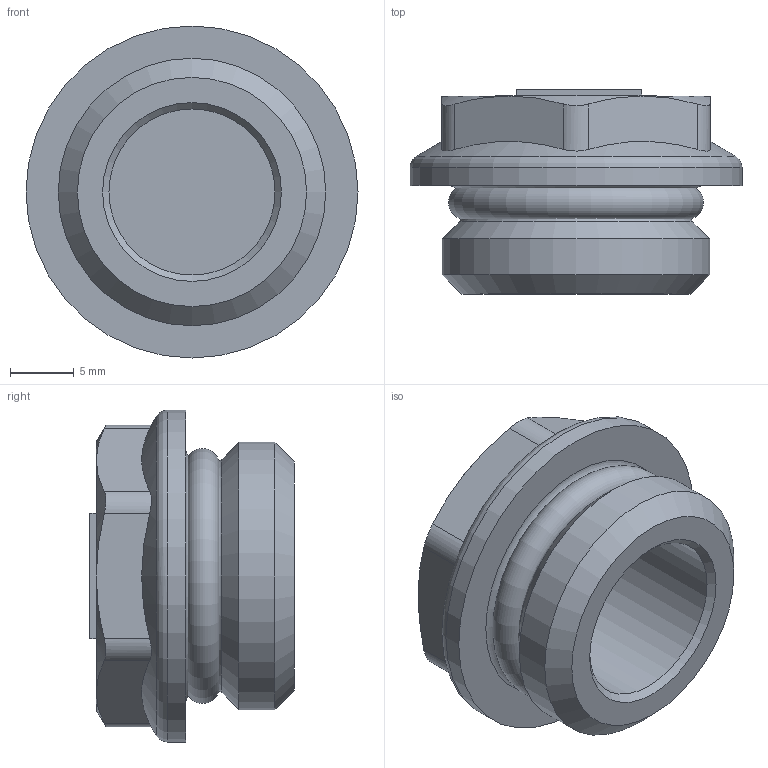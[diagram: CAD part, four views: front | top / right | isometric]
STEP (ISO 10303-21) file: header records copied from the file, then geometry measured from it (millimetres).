
FILE_DESCRIPTION(('STEP AP203'), '1');
FILE_NAME('ÂÐ.305319.006.000 ÑÁ - VTr.583.NR.004 Ïðîá. ðåçüá. G1-2', '2024-03-01T13:02:37', ('User'), ('Vesta'), 'C3D Converter', 'C3D Toolkit', '');
FILE_SCHEMA(('CONFIG_CONTROL_DESIGN'));
Length unit declared in the file: millimetre
Products named in the file (3): ВР.305319.006.000 СБ; ВР.753125.010
Assembly tree (2 placements, depth 2):
  ВР.305319.006.000 СБ
    ВР.753125.010
    (unnamed)
Bounding box: 26 x 16 x 26 mm (x, y, z)
Volume: 4128.7 mm3; surface area: 3109.8 mm2
Topology: 2 solids, 2 shells, 52 faces, 121 edges, 76 vertices
Faces by surface type: plane 27, cylinder 11, cone 10, torus 4
Full cylindrical faces by diameter (mm): 13 x1, 18 x1, 20.955 x1, 26 x1
Entity records: 2843 total; most frequent: CARTESIAN_POINT 1183, ORIENTED_EDGE 216, DIRECTION 209, EDGE_CURVE 108, AXIS2_PLACEMENT_3D 77, VERTEX_POINT 75, EDGE_LOOP 67, LINE 55
